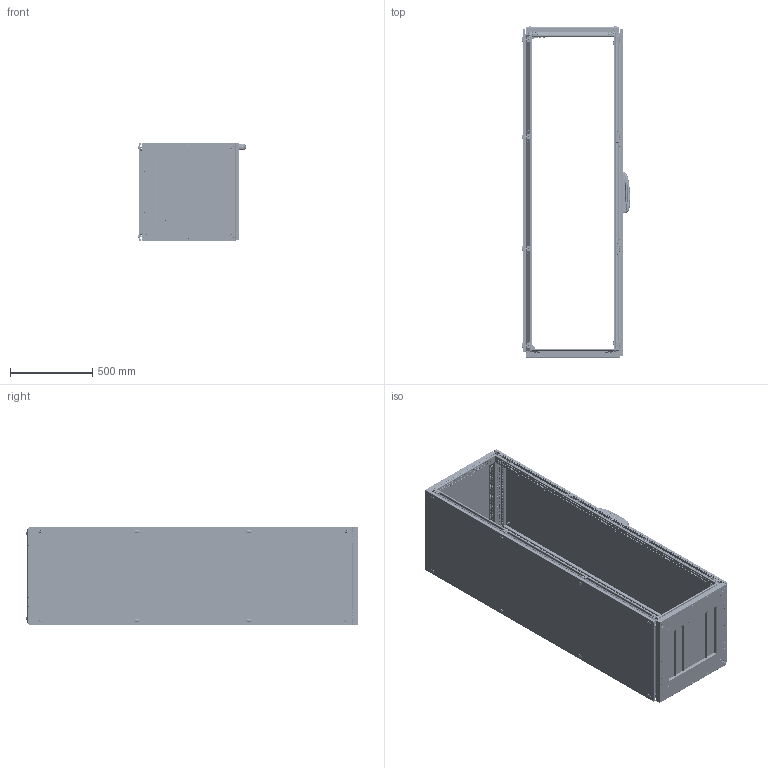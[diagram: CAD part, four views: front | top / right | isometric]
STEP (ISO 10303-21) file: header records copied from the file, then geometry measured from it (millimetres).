
FILE_DESCRIPTION (( 'STEP AP214' ), '1' );
FILE_NAME ('T200606S - 2000 H X 600 W X 600 D.STEP', '2026-09-11T14:00:46', ( '' ), ( '' ), 'SwSTEP 2.0', 'SolidWorks 2025', '' );
FILE_SCHEMA (( 'AUTOMOTIVE_DESIGN' ));
Length unit declared in the file: millimetre
Products named in the file (95): CORNER BRACKET 2; MP 25.0029 TEOS ORTA KİLİT DİLİ; TEOS FRAME ASSEMBLY_600x2000x600; BOYUNA DELIKLI PROFIL_2000; MP 25.0027 TEOS MENTEŞE ORTA; Riveted Base_701.660-60X60 ALT; DDENEME5DENEME4AynalamaTEOS Kilit Alt Çubuk Montaj4; Crossmember Frontdoor_600x2000; pan cross head_am1_B18.6.7M - M5 x 0.8 x 10 Type I Cross Recessed PHMS --10N; DDENEME5DENEME4AynalamaTEOS Kilit Alt Çubuk_2000; MP 14.0006 SEALING GASKET; somu; TEOS FRAME_2000 ; DDENEME5DENEME4MP 18.7631 Arka Kapak; L CORNER SUPPORT; DDENEME5DENEME4TEOS Kilit Alt Çubuk Montaj_2000H; TEOS-NEO MP Right Support Plastic Wedge; Teos-Neo Mounting Plate Right Bracket Mounting_Standart Pozisyon; MP 11.0140 TEOS ALUMINIUM CORNER; DDENEME5DENEME4MP 18.7631 204 handle REV04 tekpan logo; MP 25.0030 TEOS YAN VE ARKA KAPAK BAĞLANTI SACI ALT - ÜST; mp aLT DAYAMA_PP 12.0093 - 600; socket head cap screw_am_B18.3.1M - 8 x 1.25 x 35 Hex SHCS -- 35NHX; m6 fiber nut; DDENEME5DENEME4MP 18.7631 Kayar Parça; B18.3.5M - 5 x 0.8 x 10 Socket FCHS  -- 10N_B18.3.5M - 5 x 0.8 x 10 Socket FCHS  -- 10N; DDENEME5DENEME4MP 18.7631 Modul; Teos-Neo MP Durdurucu Destek; Base width with rivet_PP 12.0019 - 600; DDENEME5DENEME4AynalamaTEOS Kilit Çubuk Dili-1; MP 25.0026 TEOS MENTEŞE ALT - ÜST; M8 Somun Kafesi_m8; DDENEME5DENEME4AynalamaTEOS Kilit Çubuk Pimi-1; kafes somun kafes 2025; TEOS FRONT DOOR_600x2000; M6 KAFES SOMU; Mirror03-KOSE PUNT; somu 2025; PM 25.0042 HINGE BRACKET WITH CAGE NUT TOP - MIDDLE; TEOS FRAME_600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
Assembly tree (322 placements, depth 5):
  T200606S -  2000 H X 600 W X 600 D
    TEOS FRAME ASSEMBLY_600x2000x600
      TEOS FRAME_2000   x4
      TEOS FRAME_600  x8
      L CORNER SUPPORT  x8
      CORNER BRACKET  x15
      CORNER BRACKET 2
      MP 11.0140 TEOS ALUMINIUM CORNER  x8
      M5 SQUARE WASHER  x16
      Riveted Base_701.660-60X60 ALT
        Base width with rivet_PP 12.0019 - 600  x2
        Base depth with rivet_PP 12.0025 - 600  x2
        03-KOSE PUNT_PP 12.0027
        03-KOSE PUNT
        Mirror03-KOSE PUNT  x2
        03-TABAN SACI SURGU_PP 12.0030 - 600  x2
        03-TABAN SACI U1 04-2012_PP 12.0040 - 600-75
        03-TABAN SACI U1 04-2012_PP 12.0035 - 600-200
        mp aLT DAYAMA_PP 12.0093 - 600  x2
      socket button head cap screw_am_B18.3.4M - 8 x 1.25 x 16 SBHCS --N  x53
      pan cross head_am1_B18.6.7M - M5 x 0.8 x 10 Type I Cross Recessed PHMS --10N  x23
      B18.3.5M - 5 x 0.8 x 10 Socket FCHS  -- 10N_B18.3.5M - 5 x 0.8 x 10 Socket FCHS  -- 10N  x16
      PM 25.0039 WITH CAGE NUT TEOS SIDE AND REAR PANEL BRACKET TOP - BOTTOM  x4
        MP 25.0030 TEOS YAN VE ARKA KAPAK BAĞLANTI SACI ALT - ÜST
        M6 KAFES SOMU2015 2025
          kafes somun kafes 2025
          somu 2025
      PM 25.0040 WITH CAGE NUT TEOS SIDE AND REAR PANEL BRACKET - MIDDLE  x4
        MP 25.0031 TEOS YAN VE ARKA KAPAK BAĞLANTI SACI ORTA
        M6 KAFES SOMU2015 2025
          kafes somun kafes 2025
          somu 2025
      PM 25.0037 WITH CAGE NUT TEOS LOCK BRACKET TOP-BOTTOM  x2
        MP 25.0028 TEOS ALT - ÜST KİLİT DİLİ
        M6 KAFES SOMU2015 2025
          kafes somun kafes 2025
          somu 2025
      PM 25.0038 WITH CAGE NUT TEOS LOCK BRACKET TOP-MIDDLE  x2
        MP 25.0029 TEOS ORTA KİLİT DİLİ
        M6 KAFES SOMU2015 2025
          kafes somun kafes 2025
          somu 2025
      PM 25.0041 HINGE BRACKET WITH CAGE NUT TOP - BOTTOM  x2
        MP 25.0026 TEOS MENTEŞE ALT - ÜST
        M6 KAFES SOMU
          kafes somun kafes
          somu
      PM 25.0042 HINGE BRACKET WITH CAGE NUT TOP - MIDDLE  x2
        MP 25.0027 TEOS MENTEŞE ORTA
        M6 KAFES SOMU2015 2025
          kafes somun kafes 2025
          somu 2025
    TEOS TOP COVER_PP 12.0006 600X600
    TEOS FRONT DOOR_600x2000
      Front Door 2 mm DKP_PP 17.1082 600x2000
      Front Door Plastic Screw Holder  x4
      Crossmember Frontdoor_600x2000
        ENINE DELIKLI PROFIL_600  x2
        BOYUNA DELIKLI PROFIL_2000  x2
        22032010-PLASTIK KOSE50x40  x4
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Bounding box: 658.18 x 2018.08 x 601.56 mm (x, y, z)
Volume: 15323432.1 mm3; surface area: 15288077.7 mm2
Topology: 346 solids, 386 shells, 45646 faces, 122297 edges, 76999 vertices
Faces by surface type: plane 27734, cylinder 13031, bspline 2261, cone 1096, torus 901, sphere 623
Entity records: 592899 total; most frequent: CARTESIAN_POINT 281417, ORIENTED_EDGE 66060, DIRECTION 60767, EDGE_CURVE 33030, VERTEX_POINT 21042, AXIS2_PLACEMENT_3D 20405, VECTOR 19957, LINE 19957
